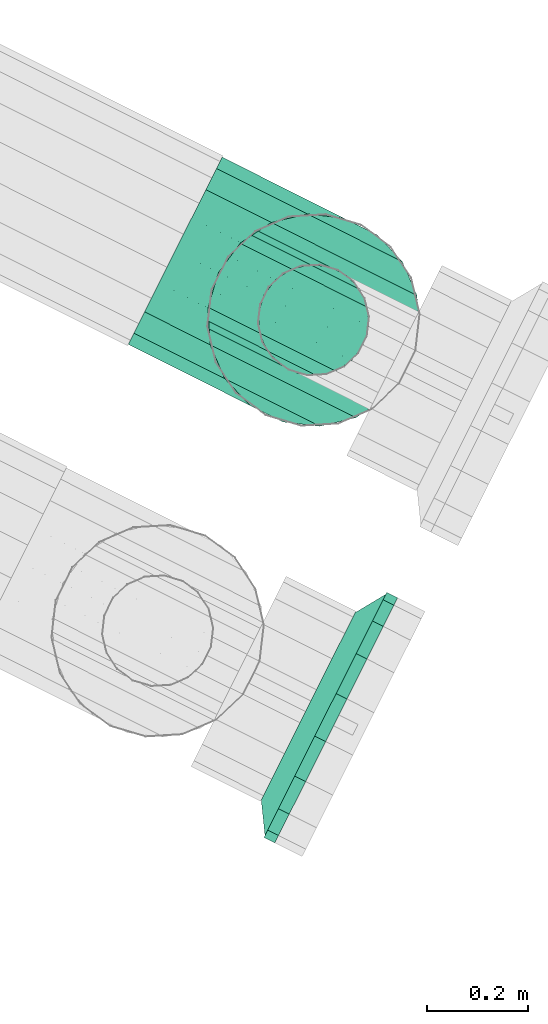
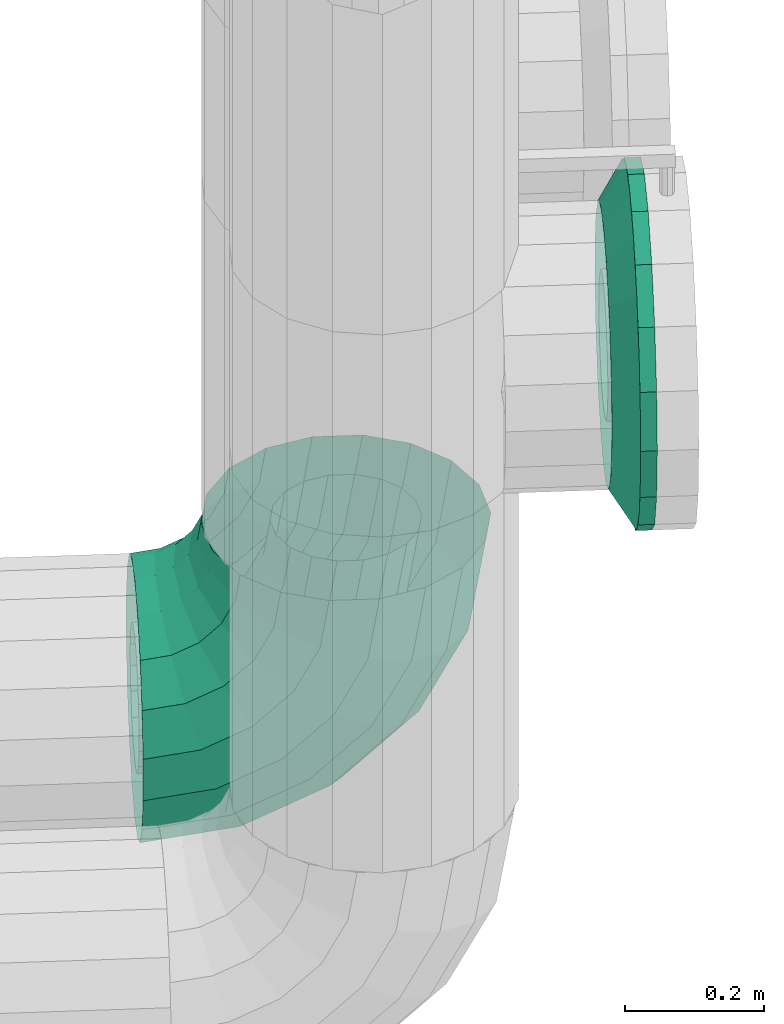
# One storey, part 8 of 11: 1 flow fitting, 1 flow segment.
"""IFC2X3 building model written with IfcOpenShell, lengths in metres."""

from ifc_helpers import new_model, si_unit, derived_unit, direction, frame, origin, place, context, subcontext, project, spatial, face_set, surface_model, source, transform, mapped, material, type_object, type_shapes, element, save


model = new_model("IFC2X3")

# Units and contexts
model_context = context("Model", 3, precision=5.2338327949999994e-05, world=origin(), true_north=direction((0.0, 1.0)))
body_context = subcontext(model_context, "Body", "Model", "MODEL_VIEW")
ifc_project = project(units=[si_unit("LENGTHUNIT", "METRE"), si_unit("AREAUNIT", "SQUARE_METRE"), si_unit("VOLUMEUNIT", "CUBIC_METRE"), si_unit("MASSUNIT", "GRAM", prefix="KILO"), si_unit("PLANEANGLEUNIT", "RADIAN"), derived_unit("THERMALTRANSMITTANCEUNIT", [(si_unit("MASSUNIT", "GRAM", prefix="KILO"), 1), (si_unit("THERMODYNAMICTEMPERATUREUNIT", "KELVIN"), -1), (si_unit("TIMEUNIT", "SECOND"), -3)])], contexts=[model_context])

# Site, building, storey
site_placement = place(None, frame((0.0, 0.0, 0.0), z_axis=(0.0, 0.0, 1.0), x_axis=(0.8939966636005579, -0.4480736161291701, 0.0)))
site = spatial("IfcSite", under=ifc_project, at=site_placement, Name="Default", CompositionType="ELEMENT")
building_placement = place(site_placement, origin())
building = spatial("IfcBuilding", under=site, at=building_placement, CompositionType="ELEMENT")
storey_placement = place(building_placement, frame((0.0, 0.0, -2.7499999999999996)))
storey = spatial("IfcBuildingStorey", under=building, at=storey_placement, Name="1. Untergeschoss", CompositionType="ELEMENT", Elevation=-2.7499999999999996)

# Flow segment
ifc_material_1 = material(Name="IfcSurfaceStyle #1741")
distribution_element_type_1 = type_object("IfcDistributionElementType", Name="Rohrbogen 852813:Rohrbogen 852813", material=ifc_material_1)
shared_shape_1 = source(origin(), body_context, "Body", "SurfaceModel", [
    surface_model("IfcFaceBasedSurfaceModel", [(1.025819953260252, 8.012208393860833, -1.774), (1.0192132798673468, 7.974740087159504, -1.7739999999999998), (0.9992471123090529, 7.974740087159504, -1.9000614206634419), (1.0055304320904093, 8.012208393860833, -1.9021029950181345), (0.9413030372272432, 7.974740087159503, -2.0137830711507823), (0.946647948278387, 8.012208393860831, -2.0176663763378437), (0.8510530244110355, 7.974740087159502, -2.104033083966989), (0.8549363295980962, 8.012208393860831, -2.109377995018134), (0.737331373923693, 7.974740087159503, -2.161977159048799), (0.739372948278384, 8.012208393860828, -2.168260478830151), (0.6112699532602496, 7.974740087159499, -2.1819433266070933), (0.6112699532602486, 8.012208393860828, -2.188549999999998), (1.0001901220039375, 7.941791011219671, -1.7739999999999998), (0.981155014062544, 7.94179101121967, -1.8941829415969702), (0.9259129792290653, 7.94179101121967, -2.0026015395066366), (0.8398714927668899, 7.941791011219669, -2.08864302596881), (0.7314528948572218, 7.9417910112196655, -2.143885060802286), (0.6112699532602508, 7.9417910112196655, -2.162920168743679), (0.9710449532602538, 7.917335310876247, -1.7739999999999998), (0.9534363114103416, 7.917335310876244, -1.8851765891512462), (0.9023340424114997, 7.917335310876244, -1.9854704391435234), (0.8227403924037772, 7.9173353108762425, -2.065064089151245), (0.7224465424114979, 7.917335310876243, -2.116166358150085), (0.6112699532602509, 7.917335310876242, -2.133774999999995), (0.9352931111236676, 7.904322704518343, -1.7739999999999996), (0.9194342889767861, 7.904322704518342, -1.87412866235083), (0.8734101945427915, 7.904322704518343, -1.9644560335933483), (0.8017259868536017, 7.904322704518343, -2.036140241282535), (0.7113986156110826, 7.904322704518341, -2.0821643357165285), (0.6112699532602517, 7.9043227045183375, -2.098023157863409), (0.8972467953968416, 7.904322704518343, -1.773999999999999), (0.883250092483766, 7.904322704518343, -1.8623717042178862), (0.8426300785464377, 7.904322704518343, -1.9420929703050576), (0.779362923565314, 7.904322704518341, -2.00536012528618), (0.6996416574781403, 7.904322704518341, -2.04598013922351), (0.6112699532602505, 7.9043227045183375, -2.059976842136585), (0.8614949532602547, 7.917335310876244, -1.7739999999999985), (0.8492480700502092, 7.917335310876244, -1.8513237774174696), (0.8137062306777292, 7.917335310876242, -1.9210785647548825), (0.7583485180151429, 7.917335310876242, -1.9764362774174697), (0.6885937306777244, 7.917335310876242, -2.011978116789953), (0.6112699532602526, 7.91733531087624, -2.0242249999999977), (0.83234978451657, 7.941791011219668, -1.773999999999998), (0.8215293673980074, 7.9417910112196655, -1.8423174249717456), (0.7901272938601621, 7.941791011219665, -1.9039474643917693), (0.7412174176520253, 7.941791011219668, -1.9528573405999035), (0.679587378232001, 7.9417910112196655, -1.9842594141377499), (0.6112699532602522, 7.941791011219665, -1.9950798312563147), (0.8133266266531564, 7.974740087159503, -1.7739999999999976), (0.8034372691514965, 7.9747400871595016, -1.8364389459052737), (0.7747372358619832, 7.9747400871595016, -1.8927659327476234), (0.7300358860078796, 7.974740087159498, -1.9374672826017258), (0.673708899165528, 7.974740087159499, -1.9661673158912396), (0.6112699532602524, 7.974740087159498, -1.9760566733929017), (0.8067199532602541, 8.01220839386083, -1.7739999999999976), (0.7971539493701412, 8.012208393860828, -1.8343973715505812), (0.7693923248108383, 8.012208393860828, -1.8888826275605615), (0.7261525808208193, 8.012208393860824, -1.932122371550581), (0.6716673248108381, 8.012208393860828, -1.9598839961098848), (0.6112699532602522, 8.012208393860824, -1.9694499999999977), (0.8133266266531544, 8.049676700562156, -1.7739999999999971), (0.803437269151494, 8.049676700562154, -1.8364389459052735), (0.7747372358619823, 8.049676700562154, -1.892765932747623), (0.7300358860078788, 8.049676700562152, -1.9374672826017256), (0.6737088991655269, 8.049676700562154, -1.9661673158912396), (0.611269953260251, 8.049676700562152, -1.9760566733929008), (0.8323497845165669, 8.08262577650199, -1.7739999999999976), (0.8215293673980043, 8.082625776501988, -1.8423174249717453), (0.7901272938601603, 8.082625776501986, -1.903947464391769), (0.7412174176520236, 8.08262577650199, -1.952857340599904), (0.6795873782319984, 8.082625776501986, -1.984259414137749), (0.6112699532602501, 8.082625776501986, -1.9950798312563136), (0.8614949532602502, 8.107081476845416, -1.7739999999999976), (0.8492480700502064, 8.107081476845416, -1.8513237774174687), (0.8137062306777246, 8.107081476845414, -1.9210785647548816), (0.7583485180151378, 8.107081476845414, -1.9764362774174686), (0.6885937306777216, 8.107081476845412, -2.011978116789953), (0.6112699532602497, 8.10708147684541, -2.0242249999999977), (0.8972467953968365, 8.12009408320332, -1.7739999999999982), (0.8832500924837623, 8.120094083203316, -1.8623717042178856), (0.8426300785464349, 8.120094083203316, -1.9420929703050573), (0.7793629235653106, 8.120094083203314, -2.0053601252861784), (0.6996416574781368, 8.120094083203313, -2.0459801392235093), (0.6112699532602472, 8.120094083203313, -2.0599768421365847), (0.9352931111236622, 8.120094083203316, -1.7739999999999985), (0.919434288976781, 8.120094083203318, -1.874128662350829), (0.8734101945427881, 8.120094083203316, -1.9644560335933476), (0.8017259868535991, 8.120094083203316, -2.036140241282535), (0.7113986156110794, 8.120094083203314, -2.0821643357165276), (0.6112699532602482, 8.120094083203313, -2.0980231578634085), (0.9710449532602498, 8.10708147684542, -1.773999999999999), (0.953436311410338, 8.107081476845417, -1.885176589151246), (0.9023340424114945, 8.107081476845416, -1.985470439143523), (0.822740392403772, 8.107081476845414, -2.0650640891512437), (0.7224465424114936, 8.107081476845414, -2.116166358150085), (0.6112699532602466, 8.10708147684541, -2.1337749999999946), (1.0001901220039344, 8.08262577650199, -1.7739999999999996), (0.9811550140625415, 8.08262577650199, -1.89418294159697), (0.925912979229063, 8.082625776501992, -2.002601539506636), (0.8398714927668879, 8.082625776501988, -2.0886430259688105), (0.7314528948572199, 8.082625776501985, -2.1438850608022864), (0.6112699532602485, 8.082625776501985, -2.1629201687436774), (1.0192132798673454, 8.049676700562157, -1.7739999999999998), (0.9992471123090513, 8.049676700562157, -1.9000614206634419), (0.9413030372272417, 8.049676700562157, -2.0137830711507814), (0.8510530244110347, 8.049676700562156, -2.104033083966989), (0.7373313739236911, 8.049676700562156, -2.1619771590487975), (0.611269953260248, 8.049676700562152, -2.181943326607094), (1.1258199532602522, 8.012208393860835, -1.7740000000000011), (1.1131825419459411, 7.940538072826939, -1.7740000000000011), (1.0886171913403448, 7.940538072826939, -1.9290995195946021), (1.1006360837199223, 8.012208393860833, -1.93300469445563), (1.0173257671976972, 7.940538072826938, -2.069016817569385), (1.0275496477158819, 8.012208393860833, -2.076444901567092), (0.9062867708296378, 7.940538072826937, -2.1800558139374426), (0.9137148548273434, 8.012208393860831, -2.1902796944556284), (0.7663694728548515, 7.940538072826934, -2.2513472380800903), (0.7702746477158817, 8.01220839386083, -2.263366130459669), (0.6112699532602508, 7.940538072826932, -2.2759125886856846), (0.6112699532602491, 8.012208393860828, -2.2885499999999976), (1.0767945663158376, 7.877512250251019, -1.774000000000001), (1.0540101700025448, 7.877512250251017, -1.9178550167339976), (0.9878872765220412, 7.877512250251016, -2.047628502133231), (0.8848984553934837, 7.877512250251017, -2.150617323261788), (0.7551249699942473, 7.877512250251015, -2.216740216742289), (0.6112699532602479, 7.877512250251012, -2.2395246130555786), (1.0210449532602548, 7.830732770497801, -1.7740000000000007), (1.0009891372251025, 7.830732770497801, -1.9006274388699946), (0.9427848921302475, 7.830732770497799, -2.0148597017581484), (0.8521296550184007, 7.830732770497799, -2.1055149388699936), (0.7378973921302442, 7.8307327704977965, -2.1637191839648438), (0.6112699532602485, 7.830732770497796, -2.1837749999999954), (0.9526579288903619, 7.805841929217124, -1.7739999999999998), (0.9359492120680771, 7.805841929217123, -1.8794946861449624), (0.8874586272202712, 7.805841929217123, -1.974662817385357), (0.8119327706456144, 7.80584192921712, -2.0501886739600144), (0.7167646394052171, 7.805841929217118, -2.0986792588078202), (0.6112699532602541, 7.8058419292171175, -2.115387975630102), (0.8798819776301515, 7.805841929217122, -1.7739999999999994), (0.8667351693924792, 7.805841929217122, -1.857005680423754), (0.8285816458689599, 7.805841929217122, -1.931886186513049), (0.7691561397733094, 7.805841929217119, -1.9913116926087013), (0.6942756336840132, 7.805841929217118, -2.0294652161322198), (0.6112699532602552, 7.805841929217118, -2.0426120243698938), (0.8114949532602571, 7.8307327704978, -1.7739999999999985), (0.8016952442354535, 7.8307327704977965, -1.8358729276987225), (0.7732553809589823, 7.8307327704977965, -1.891689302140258), (0.7289592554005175, 7.8307327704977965, -1.9359854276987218), (0.6731428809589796, 7.830732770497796, -1.9644252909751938), (0.6112699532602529, 7.830732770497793, -1.974224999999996), (0.7557453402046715, 7.877512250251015, -1.7739999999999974), (0.7486742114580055, 7.877512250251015, -1.8186453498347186), (0.7281529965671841, 7.877512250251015, -1.8589205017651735), (0.6961904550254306, 7.877512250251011, -1.8908830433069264), (0.6559153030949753, 7.877512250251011, -1.9114042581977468), (0.6112699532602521, 7.877512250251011, -1.9184753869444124), (0.7193573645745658, 7.940538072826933, -1.773999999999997), (0.7140671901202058, 7.940538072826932, -1.8074008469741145), (0.6987145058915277, 7.940538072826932, -1.8375321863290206), (0.6748021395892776, 7.940538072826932, -1.8614445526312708), (0.6446708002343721, 7.940538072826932, -1.8767972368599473), (0.6112699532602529, 7.940538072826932, -1.8820874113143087), (0.7067199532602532, 8.012208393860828, -1.773999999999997), (0.7020482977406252, 8.012208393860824, -1.8034956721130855), (0.6884906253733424, 8.012208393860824, -1.8301041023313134), (0.6673740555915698, 8.012208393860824, -1.8512206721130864), (0.6407656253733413, 8.012208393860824, -1.8647783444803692), (0.6112699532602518, 8.012208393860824, -1.8694499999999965), (0.719357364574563, 8.08387871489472, -1.773999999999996), (0.7140671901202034, 8.08387871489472, -1.8074008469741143), (0.6987145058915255, 8.083878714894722, -1.8375321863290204), (0.6748021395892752, 8.08387871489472, -1.8614445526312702), (0.6446708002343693, 8.083878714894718, -1.876797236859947), (0.6112699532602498, 8.083878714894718, -1.8820874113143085), (0.7557453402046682, 8.146904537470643, -1.773999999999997), (0.7486742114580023, 8.146904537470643, -1.8186453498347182), (0.7281529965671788, 8.146904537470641, -1.8589205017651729), (0.6961904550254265, 8.146904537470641, -1.8908830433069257), (0.6559153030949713, 8.14690453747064, -1.9114042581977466), (0.6112699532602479, 8.14690453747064, -1.9184753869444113), (0.8114949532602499, 8.193684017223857, -1.7739999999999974), (0.8016952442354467, 8.193684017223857, -1.8358729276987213), (0.7732553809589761, 8.193684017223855, -1.8916893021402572), (0.7289592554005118, 8.193684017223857, -1.9359854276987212), (0.6731428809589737, 8.193684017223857, -1.9644252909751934), (0.6112699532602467, 8.193684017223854, -1.9742249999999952), (0.8798819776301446, 8.218574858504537, -1.7739999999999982), (0.8667351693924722, 8.218574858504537, -1.8570056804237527), (0.8285816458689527, 8.218574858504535, -1.9318861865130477), (0.7691561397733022, 8.218574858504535, -1.9913116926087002), (0.6942756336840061, 8.218574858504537, -2.0294652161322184), (0.611269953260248, 8.218574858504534, -2.0426120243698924), (0.9526579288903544, 8.21857485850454, -1.7739999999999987), (0.9359492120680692, 8.218574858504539, -1.8794946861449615), (0.8874586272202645, 8.218574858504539, -1.9746628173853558), (0.8119327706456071, 8.218574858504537, -2.0501886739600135), (0.7167646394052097, 8.218574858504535, -2.0986792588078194), (0.611269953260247, 8.218574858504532, -2.1153879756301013), (1.0210449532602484, 8.19368401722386, -1.7739999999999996), (1.000989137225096, 8.19368401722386, -1.9006274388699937), (0.9427848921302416, 8.19368401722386, -2.0148597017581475), (0.8521296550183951, 8.193684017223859, -2.1055149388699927), (0.7378973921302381, 8.193684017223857, -2.163719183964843), (0.6112699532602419, 8.193684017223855, -2.1837749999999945), (1.0767945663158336, 8.146904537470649, -1.774), (1.0540101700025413, 8.146904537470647, -1.9178550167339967), (0.9878872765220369, 8.146904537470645, -2.047628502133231), (0.8848984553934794, 8.146904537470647, -2.1506173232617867), (0.7551249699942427, 8.146904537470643, -2.2167402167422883), (0.6112699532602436, 8.146904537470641, -2.2395246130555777), (1.1131825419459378, 8.083878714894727, -1.7740000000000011), (1.0886171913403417, 8.083878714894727, -1.9290995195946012), (1.0173257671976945, 8.083878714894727, -2.0690168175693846), (0.9062867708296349, 8.083878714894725, -2.1800558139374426), (0.7663694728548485, 8.083878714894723, -2.2513472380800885), (0.6112699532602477, 8.08387871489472, -2.2759125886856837)], [face_set([[[0, 1, 2, 3]], [[3, 2, 4, 5]], [[5, 4, 6, 7]], [[7, 6, 8, 9]], [[9, 8, 10, 11]], [[1, 12, 13, 2]], [[2, 13, 14, 4]], [[4, 14, 15, 6]], [[6, 15, 16, 8]], [[8, 16, 17, 10]], [[12, 18, 19, 13]], [[13, 19, 20, 14]], [[14, 20, 21, 15]], [[15, 21, 22, 16]], [[16, 22, 23, 17]], [[18, 24, 25, 19]], [[19, 25, 26, 20]], [[20, 26, 27, 21]], [[21, 27, 28, 22]], [[22, 28, 29, 23]], [[24, 30, 31, 25]], [[25, 31, 32, 26]], [[26, 32, 33, 27]], [[27, 33, 34, 28]], [[28, 34, 35, 29]], [[30, 36, 37, 31]], [[31, 37, 38, 32]], [[32, 38, 39, 33]], [[33, 39, 40, 34]], [[34, 40, 41, 35]], [[36, 42, 43, 37]], [[37, 43, 44, 38]], [[38, 44, 45, 39]], [[39, 45, 46, 40]], [[40, 46, 47, 41]], [[42, 48, 49, 43]], [[43, 49, 50, 44]], [[44, 50, 51, 45]], [[45, 51, 52, 46]], [[46, 52, 53, 47]], [[48, 54, 55, 49]], [[49, 55, 56, 50]], [[50, 56, 57, 51]], [[51, 57, 58, 52]], [[52, 58, 59, 53]], [[54, 60, 61, 55]], [[55, 61, 62, 56]], [[56, 62, 63, 57]], [[57, 63, 64, 58]], [[58, 64, 65, 59]], [[60, 66, 67, 61]], [[61, 67, 68, 62]], [[62, 68, 69, 63]], [[63, 69, 70, 64]], [[64, 70, 71, 65]], [[66, 72, 73, 67]], [[67, 73, 74, 68]], [[68, 74, 75, 69]], [[69, 75, 76, 70]], [[70, 76, 77, 71]], [[72, 78, 79, 73]], [[73, 79, 80, 74]], [[74, 80, 81, 75]], [[75, 81, 82, 76]], [[76, 82, 83, 77]], [[78, 84, 85, 79]], [[79, 85, 86, 80]], [[80, 86, 87, 81]], [[81, 87, 88, 82]], [[82, 88, 89, 83]], [[84, 90, 91, 85]], [[85, 91, 92, 86]], [[86, 92, 93, 87]], [[87, 93, 94, 88]], [[88, 94, 95, 89]], [[90, 96, 97, 91]], [[91, 97, 98, 92]], [[92, 98, 99, 93]], [[93, 99, 100, 94]], [[94, 100, 101, 95]], [[96, 102, 103, 97]], [[97, 103, 104, 98]], [[98, 104, 105, 99]], [[99, 105, 106, 100]], [[100, 106, 107, 101]], [[102, 0, 3, 103]], [[103, 3, 5, 104]], [[104, 5, 7, 105]], [[105, 7, 9, 106]], [[106, 9, 11, 107]], [[108, 109, 110, 111]], [[111, 110, 112, 113]], [[113, 112, 114, 115]], [[115, 114, 116, 117]], [[117, 116, 118, 119]], [[109, 120, 121, 110]], [[110, 121, 122, 112]], [[112, 122, 123, 114]], [[114, 123, 124, 116]], [[116, 124, 125, 118]], [[120, 126, 127, 121]], [[121, 127, 128, 122]], [[122, 128, 129, 123]], [[123, 129, 130, 124]], [[124, 130, 131, 125]], [[126, 132, 133, 127]], [[127, 133, 134, 128]], [[128, 134, 135, 129]], [[129, 135, 136, 130]], [[130, 136, 137, 131]], [[132, 138, 139, 133]], [[133, 139, 140, 134]], [[134, 140, 141, 135]], [[135, 141, 142, 136]], [[136, 142, 143, 137]], [[138, 144, 145, 139]], [[139, 145, 146, 140]], [[140, 146, 147, 141]], [[141, 147, 148, 142]], [[142, 148, 149, 143]], [[144, 150, 151, 145]], [[145, 151, 152, 146]], [[146, 152, 153, 147]], [[147, 153, 154, 148]], [[148, 154, 155, 149]], [[150, 156, 157, 151]], [[151, 157, 158, 152]], [[152, 158, 159, 153]], [[153, 159, 160, 154]], [[154, 160, 161, 155]], [[156, 162, 163, 157]], [[157, 163, 164, 158]], [[158, 164, 165, 159]], [[159, 165, 166, 160]], [[160, 166, 167, 161]], [[162, 168, 169, 163]], [[163, 169, 170, 164]], [[164, 170, 171, 165]], [[165, 171, 172, 166]], [[166, 172, 173, 167]], [[168, 174, 175, 169]], [[169, 175, 176, 170]], [[170, 176, 177, 171]], [[171, 177, 178, 172]], [[172, 178, 179, 173]], [[174, 180, 181, 175]], [[175, 181, 182, 176]], [[176, 182, 183, 177]], [[177, 183, 184, 178]], [[178, 184, 185, 179]], [[180, 186, 187, 181]], [[181, 187, 188, 182]], [[182, 188, 189, 183]], [[183, 189, 190, 184]], [[184, 190, 191, 185]], [[186, 192, 193, 187]], [[187, 193, 194, 188]], [[188, 194, 195, 189]], [[189, 195, 196, 190]], [[190, 196, 197, 191]], [[192, 198, 199, 193]], [[193, 199, 200, 194]], [[194, 200, 201, 195]], [[195, 201, 202, 196]], [[196, 202, 203, 197]], [[198, 204, 205, 199]], [[199, 205, 206, 200]], [[200, 206, 207, 201]], [[201, 207, 208, 202]], [[202, 208, 209, 203]], [[204, 210, 211, 205]], [[205, 211, 212, 206]], [[206, 212, 213, 207]], [[207, 213, 214, 208]], [[208, 214, 215, 209]], [[210, 108, 111, 211]], [[211, 111, 113, 212]], [[212, 113, 115, 213]], [[213, 115, 117, 214]], [[214, 117, 119, 215]]])]),
])
type_shapes(distribution_element_type_1, [shared_shape_1])
flow_segment_placement = place(storey_placement, frame((0.0, 0.0, 2.7499999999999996)))
element("IfcFlowSegment", 1, at=flow_segment_placement, inside=storey, type_object=distribution_element_type_1, material=ifc_material_1, Name="Rohrbogen", ObjectType="Rohrbogen", context=body_context, shape_type="MappedRepresentation", body=[
    mapped(shared_shape_1, transform((0.0, 0.0, 0.0), scale=1.0)),
])

# Flow fitting
ifc_material_2 = material(Name="IfcSurfaceStyle #9317")
distribution_element_type_2 = type_object("IfcDistributionElementType", Name="Flansch 861160:Flansch 861160", material=ifc_material_2)
shared_shape_2 = source(origin(), body_context, "Body", "SurfaceModel", [
    surface_model("IfcFaceBasedSurfaceModel", [(1.2476692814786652, 7.327208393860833, -0.8955573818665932), (1.2476692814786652, 7.289740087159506, -0.9021640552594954), (1.285669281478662, 7.287021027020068, -0.8946934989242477), (1.2856692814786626, 7.3272083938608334, -0.8876073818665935), (1.2476692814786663, 7.256791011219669, -0.9211872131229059), (1.2856692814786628, 7.251680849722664, -0.9150971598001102), (1.2476692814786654, 7.2323353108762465, -0.95033238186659), (1.2856692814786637, 7.22545040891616, -0.9463573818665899), (1.2476692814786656, 7.219322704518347, -0.9860842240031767), (1.2856692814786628, 7.211493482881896, -0.9847037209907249), (1.2476692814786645, 7.219322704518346, -1.0241305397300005), (1.2856692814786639, 7.211493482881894, -1.0255110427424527), (1.247669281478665, 7.232335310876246, -1.0598823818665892), (1.285669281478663, 7.225450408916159, -1.0638573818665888), (1.2476692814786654, 7.256791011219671, -1.089027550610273), (1.2856692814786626, 7.251680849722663, -1.0951176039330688), (1.2476692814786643, 7.2897400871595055, -1.1080507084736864), (1.2856692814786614, 7.287021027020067, -1.115521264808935), (1.247669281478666, 7.32720839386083, -1.114657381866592), (1.2856692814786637, 7.3272083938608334, -1.122607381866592), (1.2476692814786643, 7.364676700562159, -1.1080507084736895), (1.2856692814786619, 7.367395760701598, -1.1155212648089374), (1.2476692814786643, 7.397625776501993, -1.0890275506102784), (1.2856692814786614, 7.402735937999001, -1.0951176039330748), (1.2476692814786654, 7.422081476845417, -1.0598823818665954), (1.285669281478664, 7.4289663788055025, -1.0638573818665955), (1.2476692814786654, 7.435094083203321, -1.0241305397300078), (1.2856692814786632, 7.442923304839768, -1.0255110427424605), (1.2476692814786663, 7.435094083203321, -0.986084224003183), (1.2856692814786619, 7.442923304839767, -0.9847037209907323), (1.2476692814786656, 7.42208147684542, -0.9503323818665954), (1.285669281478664, 7.428966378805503, -0.946357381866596), (1.2476692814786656, 7.397625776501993, -0.9211872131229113), (1.2856692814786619, 7.402735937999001, -0.9150971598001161), (1.2476692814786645, 7.36467670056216, -0.9021640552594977), (1.2856692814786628, 7.367395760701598, -0.8946934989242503), (1.2856692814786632, 7.157208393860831, -1.0051073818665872), (1.285669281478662, 7.1674606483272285, -1.0632508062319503), (1.3096692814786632, 7.1674606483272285, -1.0632508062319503), (1.3096692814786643, 7.15720839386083, -1.0051073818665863), (1.2856692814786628, 7.196980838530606, -1.1143812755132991), (1.3096692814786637, 7.196980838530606, -1.1143812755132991), (1.2856692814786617, 7.242208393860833, -1.1523317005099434), (1.3096692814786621, 7.242208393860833, -1.152331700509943), (1.285669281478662, 7.297688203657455, -1.172524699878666), (1.3096692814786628, 7.297688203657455, -1.172524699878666), (1.2856692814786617, 7.356728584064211, -1.1725246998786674), (1.3096692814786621, 7.356728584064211, -1.1725246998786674), (1.2856692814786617, 7.4122083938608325, -1.1523317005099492), (1.3096692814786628, 7.4122083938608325, -1.1523317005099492), (1.2856692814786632, 7.457435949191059, -1.1143812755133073), (1.3096692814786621, 7.457435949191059, -1.1143812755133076), (1.2856692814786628, 7.4869561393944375, -1.0632508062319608), (1.3096692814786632, 7.4869561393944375, -1.0632508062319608), (1.2856692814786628, 7.497208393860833, -1.0051073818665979), (1.3096692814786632, 7.497208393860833, -1.0051073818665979), (1.2856692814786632, 7.486956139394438, -0.9469639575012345), (1.3096692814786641, 7.486956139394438, -0.9469639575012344), (1.2856692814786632, 7.457435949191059, -0.8958334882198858), (1.3096692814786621, 7.45743594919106, -0.8958334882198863), (1.2856692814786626, 7.4122083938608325, -0.8578830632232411), (1.3096692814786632, 7.4122083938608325, -0.857883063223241), (1.2856692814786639, 7.356728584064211, -0.8376900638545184), (1.3096692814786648, 7.35672858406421, -0.8376900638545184), (1.2856692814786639, 7.297688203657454, -0.8376900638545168), (1.3096692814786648, 7.297688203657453, -0.8376900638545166), (1.2856692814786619, 7.242208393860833, -0.857883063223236), (1.3096692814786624, 7.242208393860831, -0.857883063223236), (1.2856692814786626, 7.196980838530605, -0.8958334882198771), (1.3096692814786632, 7.196980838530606, -0.8958334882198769), (1.285669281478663, 7.1674606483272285, -0.9469639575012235), (1.3096692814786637, 7.1674606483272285, -0.9469639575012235), (1.2856692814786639, 7.327208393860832, -1.0051073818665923), (1.2476692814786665, 7.327208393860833, -0.7955573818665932), (1.2476692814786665, 7.255538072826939, -0.8081947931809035), (1.2856692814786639, 7.234862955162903, -0.7513903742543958), (1.285669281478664, 7.3272083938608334, -0.7351073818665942), (1.2476692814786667, 7.192512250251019, -0.8445827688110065), (1.2856692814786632, 7.153655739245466, -0.7982753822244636), (1.2476692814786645, 7.145732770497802, -0.9003323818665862), (1.2856692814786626, 7.093381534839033, -0.8701073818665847), (1.2476692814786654, 7.120841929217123, -0.9687194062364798), (1.285669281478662, 7.061310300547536, -0.9582223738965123), (1.247669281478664, 7.120841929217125, -1.0414953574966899), (1.2856692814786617, 7.061310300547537, -1.051992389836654), (1.2476692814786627, 7.1457327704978, -1.1098823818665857), (1.2856692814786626, 7.0933815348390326, -1.1401073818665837), (1.2476692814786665, 7.192512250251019, -1.1656319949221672), (1.2856692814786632, 7.153655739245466, -1.211939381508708), (1.2476692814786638, 7.255538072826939, -1.2020199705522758), (1.285669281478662, 7.234862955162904, -1.258824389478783), (1.2476692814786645, 7.327208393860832, -1.2146573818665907), (1.285669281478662, 7.3272083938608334, -1.2751073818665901), (1.2476692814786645, 7.398878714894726, -1.2020199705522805), (1.2856692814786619, 7.419553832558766, -1.258824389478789), (1.2476692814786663, 7.461904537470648, -1.1656319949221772), (1.2856692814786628, 7.5007610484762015, -1.21193938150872), (1.2476692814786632, 7.508684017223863, -1.109882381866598), (1.2856692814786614, 7.5610352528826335, -1.1401073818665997), (1.2476692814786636, 7.533574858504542, -1.0414953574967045), (1.2856692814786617, 7.59310648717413, -1.0519923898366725), (1.2476692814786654, 7.533574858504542, -0.9687194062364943), (1.2856692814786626, 7.59310648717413, -0.9582223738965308), (1.2476692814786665, 7.508684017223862, -0.900332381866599), (1.285669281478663, 7.5610352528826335, -0.8701073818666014), (1.2476692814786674, 7.461904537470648, -0.8445827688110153), (1.285669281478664, 7.500761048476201, -0.7982753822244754), (1.247669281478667, 7.398878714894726, -0.8081947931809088), (1.2856692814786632, 7.419553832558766, -0.751390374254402), (1.2856692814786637, 7.057208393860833, -1.005107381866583), (1.2856692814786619, 7.073491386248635, -1.0974528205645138), (1.3096692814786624, 7.073491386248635, -1.0974528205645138), (1.3096692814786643, 7.057208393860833, -1.0051073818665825), (1.285669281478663, 7.120376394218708, -1.1786600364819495), (1.3096692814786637, 7.120376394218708, -1.1786600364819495), (1.2856692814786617, 7.192208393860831, -1.2389342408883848), (1.3096692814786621, 7.192208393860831, -1.2389342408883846), (1.2856692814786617, 7.280323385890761, -1.2710054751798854), (1.3096692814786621, 7.280323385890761, -1.2710054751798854), (1.2856692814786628, 7.374093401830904, -1.271005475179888), (1.3096692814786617, 7.374093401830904, -1.271005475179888), (1.2856692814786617, 7.462208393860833, -1.238934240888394), (1.3096692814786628, 7.462208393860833, -1.2389342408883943), (1.2856692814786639, 7.534040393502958, -1.178660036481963), (1.3096692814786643, 7.534040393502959, -1.1786600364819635), (1.2856692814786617, 7.580925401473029, -1.0974528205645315), (1.3096692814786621, 7.580925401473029, -1.097452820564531), (1.2856692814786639, 7.597208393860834, -1.0051073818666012), (1.3096692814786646, 7.597208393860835, -1.0051073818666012), (1.2856692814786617, 7.580925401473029, -0.9127619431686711), (1.3096692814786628, 7.580925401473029, -0.9127619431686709), (1.285669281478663, 7.534040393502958, -0.8315547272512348), (1.3096692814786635, 7.534040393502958, -0.8315547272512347), (1.2856692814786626, 7.462208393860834, -0.7712805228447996), (1.3096692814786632, 7.462208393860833, -0.7712805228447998), (1.285669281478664, 7.374093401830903, -0.7392092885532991), (1.309669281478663, 7.374093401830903, -0.7392092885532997), (1.285669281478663, 7.2803233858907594, -0.7392092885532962), (1.3096692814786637, 7.2803233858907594, -0.7392092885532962), (1.285669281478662, 7.192208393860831, -0.7712805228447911), (1.3096692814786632, 7.192208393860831, -0.771280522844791), (1.285669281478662, 7.120376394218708, -0.8315547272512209), (1.3096692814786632, 7.120376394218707, -0.8315547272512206), (1.2856692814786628, 7.0734913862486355, -0.9127619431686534), (1.3096692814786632, 7.0734913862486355, -0.9127619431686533)], [face_set([[[0, 1, 2, 3]], [[1, 4, 5, 2]], [[4, 6, 7, 5]], [[6, 8, 9, 7]], [[8, 10, 11, 9]], [[10, 12, 13, 11]], [[12, 14, 15, 13]], [[14, 16, 17, 15]], [[16, 18, 19, 17]], [[18, 20, 21, 19]], [[20, 22, 23, 21]], [[22, 24, 25, 23]], [[24, 26, 27, 25]], [[26, 28, 29, 27]], [[28, 30, 31, 29]], [[30, 32, 33, 31]], [[32, 34, 35, 33]], [[34, 0, 3, 35]], [[36, 37, 38, 39]], [[37, 40, 41, 38]], [[40, 42, 43, 41]], [[42, 44, 45, 43]], [[44, 46, 47, 45]], [[46, 48, 49, 47]], [[48, 50, 51, 49]], [[50, 52, 53, 51]], [[52, 54, 55, 53]], [[54, 56, 57, 55]], [[56, 58, 59, 57]], [[58, 60, 61, 59]], [[60, 62, 63, 61]], [[62, 64, 65, 63]], [[64, 66, 67, 65]], [[66, 68, 69, 67]], [[68, 70, 71, 69]], [[70, 36, 39, 71]], [[72, 37, 36]], [[72, 40, 37]], [[72, 42, 40]], [[72, 44, 42]], [[72, 46, 44]], [[72, 48, 46]], [[72, 50, 48]], [[72, 52, 50]], [[72, 54, 52]], [[72, 56, 54]], [[72, 58, 56]], [[72, 60, 58]], [[72, 62, 60]], [[72, 64, 62]], [[72, 66, 64]], [[72, 68, 66]], [[72, 70, 68]], [[72, 36, 70]], [[73, 74, 75, 76]], [[74, 77, 78, 75]], [[77, 79, 80, 78]], [[79, 81, 82, 80]], [[81, 83, 84, 82]], [[83, 85, 86, 84]], [[85, 87, 88, 86]], [[87, 89, 90, 88]], [[89, 91, 92, 90]], [[91, 93, 94, 92]], [[93, 95, 96, 94]], [[95, 97, 98, 96]], [[97, 99, 100, 98]], [[99, 101, 102, 100]], [[101, 103, 104, 102]], [[103, 105, 106, 104]], [[105, 107, 108, 106]], [[107, 73, 76, 108]], [[109, 110, 111, 112]], [[110, 113, 114, 111]], [[113, 115, 116, 114]], [[115, 117, 118, 116]], [[117, 119, 120, 118]], [[119, 121, 122, 120]], [[121, 123, 124, 122]], [[123, 125, 126, 124]], [[125, 127, 128, 126]], [[127, 129, 130, 128]], [[129, 131, 132, 130]], [[131, 133, 134, 132]], [[133, 135, 136, 134]], [[135, 137, 138, 136]], [[137, 139, 140, 138]], [[139, 141, 142, 140]], [[141, 143, 144, 142]], [[143, 109, 112, 144]]])]),
])
type_shapes(distribution_element_type_2, [shared_shape_2])
flow_fitting_placement = place(storey_placement, frame((0.0, 0.0, 2.7499999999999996)))
element("IfcFlowFitting", 2, at=flow_fitting_placement, inside=storey, type_object=distribution_element_type_2, material=ifc_material_2, Name="Flansch", ObjectType="Flansch", context=body_context, shape_type="MappedRepresentation", body=[
    mapped(shared_shape_2, transform((0.0, 0.0, 0.0), scale=1.0)),
])

save(model, "model.ifc")
